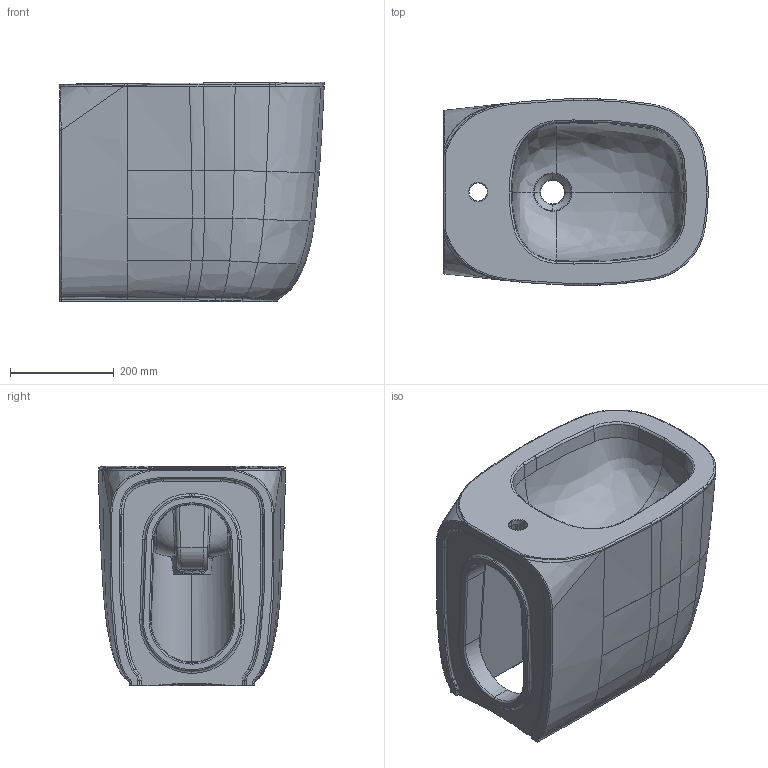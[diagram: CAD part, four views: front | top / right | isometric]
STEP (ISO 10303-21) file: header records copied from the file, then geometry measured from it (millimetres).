
FILE_DESCRIPTION(('CATIA V5 STEP Exchange'),'2;1');
FILE_NAME('C:\Users\167035\Downloads\3D_7812.stp','2025-04-18T14:40:02+00:00',('none'),('none'),'CATIA Version 5 Release 19 SP 5 (IN-10)','CATIA V5 STEP AP214','none');
FILE_SCHEMA(('AUTOMOTIVE_DESIGN { 1 0 10303 214 1 1 1 1 }'));
Products named in the file (1): Bidet terra Galassia
Bounding box: 510.03 x 360.17 x 424.01 mm (x, y, z)
Volume: 35700557.6 mm3; surface area: 1280691.7 mm2
Topology: 1 solids, 1 shells, 442 faces, 1039 edges, 585 vertices
Faces by surface type: bspline 314, cylinder 65, torus 38, plane 13, sphere 8, revolution 4
Entity records: 111625 total; most frequent: CARTESIAN_POINT 104237, ORIENTED_EDGE 2050, EDGE_CURVE 1025, B_SPLINE_CURVE_WITH_KNOTS 766, VERTEX_POINT 585, DIRECTION 507, EDGE_LOOP 448, ADVANCED_FACE 442
